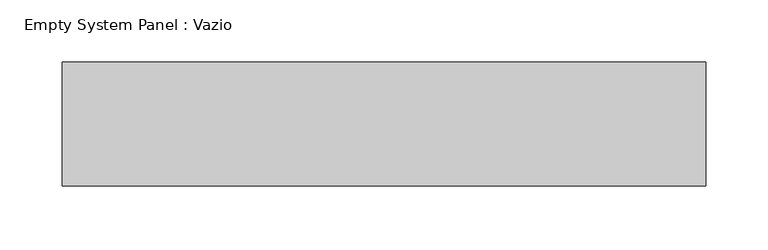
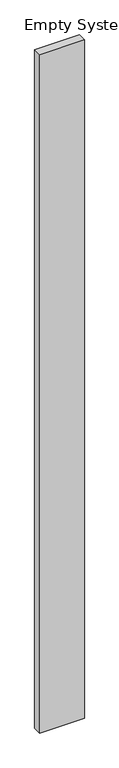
"""IFC4 building model written with IfcOpenShell, lengths in millimetres: plate geometry, Empty System Panel : Vazio."""

import ifcopenshell
import ifcopenshell.guid

model = None  # the IFC model being written
_history = None  # IfcOwnerHistory: only IFC2X3 demands one
_inside = {}  # id of a spatial element -> (the spatial element, [elements in it])
_under = {}  # id of a project, library or spatial element -> (it, [spatial elements below it])
_declared = {}  # id of a project -> (the project, [libraries it declares])
_typed = {}  # id of a type object -> (the type object, [elements of that type])
_made_of = {}  # id of a material, layer set ... -> (it, [elements and type objects made of it])


def new_model(schema):
    """Start an empty IFC model of exactly this schema.

    Asked for "IFC4X3", IfcOpenShell would pick the latest addendum, in which some entities
    have other attributes; the version numbers below select the first issue.
    IFC2X3 requires an IfcOwnerHistory on every rooted entity: one is made here for all.
    """
    global model, _history
    if schema == "IFC4X3":
        model = ifcopenshell.file(schema_version=(4, 3, 0, 0))
    else:
        model = ifcopenshell.file(schema=schema)
    _inside.clear()
    _under.clear()
    _declared.clear()
    _typed.clear()
    _made_of.clear()
    _history = None
    if model.schema == "IFC2X3":
        org = make("IfcOrganization", Name="unknown")
        user = make(
            "IfcPersonAndOrganization",
            ThePerson=make("IfcPerson", FamilyName="unknown"),
            TheOrganization=org,
        )
        app = make(
            "IfcApplication",
            ApplicationDeveloper=org,
            Version="unknown",
            ApplicationFullName="unknown",
            ApplicationIdentifier="unknown",
        )
        _history = make(
            "IfcOwnerHistory",
            OwningUser=user,
            OwningApplication=app,
            ChangeAction="ADDED",
            CreationDate=0,
        )
    return model


def make(cls, **values):
    """One entity of the class cls with the attributes given. An attribute that is None is left unset."""
    return model.create_entity(
        cls, **{name: value for name, value in values.items() if value is not None}
    )


def rooted(cls, **values):
    """An entity with a GlobalId (a new one), such as an element, a storey or a relation."""
    return make(cls, GlobalId=ifcopenshell.guid.new(), OwnerHistory=_history, **values)


def si_unit(unit_type, name, prefix=None):
    """IfcSIUnit, for example si_unit("LENGTHUNIT", "METRE", prefix="MILLI")."""
    return make("IfcSIUnit", UnitType=unit_type, Prefix=prefix, Name=name)


def assignment(units):
    """IfcUnitAssignment: the units of a project."""
    return None if units is None else make("IfcUnitAssignment", Units=units)


def point(xyz):
    """IfcCartesianPoint."""
    return None if xyz is None else make("IfcCartesianPoint", Coordinates=xyz)


def direction(xyz):
    """IfcDirection."""
    return None if xyz is None else make("IfcDirection", DirectionRatios=xyz)


def frame(location, z_axis=None, x_axis=None):
    """IfcAxis2Placement3D, a coordinate frame: its origin and axes. An axis left out is left unset."""
    return make(
        "IfcAxis2Placement3D",
        Location=point(location),
        Axis=direction(z_axis),
        RefDirection=direction(x_axis),
    )


def origin():
    """The frame at (0, 0, 0) with its axes left unset."""
    return frame((0.0, 0.0, 0.0))


def origin_with_axes():
    """The frame at (0, 0, 0) with the z axis (0, 0, 1) and the x axis (1, 0, 0) written out."""
    return frame((0.0, 0.0, 0.0), z_axis=(0.0, 0.0, 1.0), x_axis=(1.0, 0.0, 0.0))


def place(relative_to, where):
    """IfcLocalPlacement: puts the frame where relative to a parent placement (None: the world)."""
    return make(
        "IfcLocalPlacement", PlacementRelTo=relative_to, RelativePlacement=where
    )


def context(
    kind, dimensions, precision=None, world=None, true_north=None, identifier=None
):
    """IfcGeometricRepresentationContext, for example the 3D "Model" context."""
    return make(
        "IfcGeometricRepresentationContext",
        ContextIdentifier=identifier,
        ContextType=kind,
        CoordinateSpaceDimension=dimensions,
        Precision=precision,
        WorldCoordinateSystem=world,
        TrueNorth=true_north,
    )


def project(units=None, contexts=None):
    """IfcProject with its units and contexts."""
    return rooted(
        "IfcProject",
        Name="project",
        RepresentationContexts=contexts,
        UnitsInContext=assignment(units),
    )


def spatial(cls, under=None, at=None, **own):
    """A site, building, storey or space (cls), placed at a placement, below another one or the project."""
    s = rooted(cls, ObjectPlacement=at, **own)
    if under is not None:
        _under.setdefault(under.id(), (under, []))[1].append(s)
    return s


def polyline(points):
    """IfcPolyline through the points."""
    return make("IfcPolyline", Points=[point(p) for p in points])


def outline(outer, holes=None, kind="AREA"):
    """IfcArbitraryClosedProfileDef: a profile drawn as a closed curve; with holes, ...WithVoids."""
    if holes is None:
        return make("IfcArbitraryClosedProfileDef", ProfileType=kind, OuterCurve=outer)
    return make(
        "IfcArbitraryProfileDefWithVoids",
        ProfileType=kind,
        OuterCurve=outer,
        InnerCurves=holes,
    )


def extrude(swept, where, along, depth):
    """IfcExtrudedAreaSolid: the profile swept, set in the frame where, extruded along a direction by depth."""
    return make(
        "IfcExtrudedAreaSolid",
        SweptArea=swept,
        Position=where,
        ExtrudedDirection=direction(along),
        Depth=depth,
    )


def shape(context_of_items, identifier, shape_type, items):
    """IfcShapeRepresentation: the items that make up one representation, for example the "Body"."""
    return make(
        "IfcShapeRepresentation",
        ContextOfItems=context_of_items,
        RepresentationIdentifier=identifier,
        RepresentationType=shape_type,
        Items=items,
    )


def source(mapping_origin, context_of_items, identifier, shape_type, items):
    """IfcRepresentationMap: a shape defined once, which mapped items show again and again."""
    return make(
        "IfcRepresentationMap",
        MappingOrigin=mapping_origin,
        MappedRepresentation=shape(context_of_items, identifier, shape_type, items),
    )


def transform(
    local_origin,
    x_axis=None,
    y_axis=None,
    z_axis=None,
    scale=None,
    scale2=None,
    scale3=None,
    uniform=True,
):
    """IfcCartesianTransformationOperator3D, or its non-uniform kind. x_axis, y_axis, z_axis: its Axis1, 2, 3."""
    if uniform:
        return make(
            "IfcCartesianTransformationOperator3D",
            Axis1=direction(x_axis),
            Axis2=direction(y_axis),
            LocalOrigin=point(local_origin),
            Scale=scale,
            Axis3=direction(z_axis),
        )
    return make(
        "IfcCartesianTransformationOperator3DnonUniform",
        Axis1=direction(x_axis),
        Axis2=direction(y_axis),
        LocalOrigin=point(local_origin),
        Scale=scale,
        Axis3=direction(z_axis),
        Scale2=scale2,
        Scale3=scale3,
    )


def mapped(mapping_source, mapping_target):
    """IfcMappedItem: shows the shape of a source again, moved by a transform."""
    return make(
        "IfcMappedItem", MappingSource=mapping_source, MappingTarget=mapping_target
    )


def made_of(thing, what):
    """Note that an element or type object is made of a material, layer set ...; save() writes the relation."""
    if what is not None:
        _made_of.setdefault(what.id(), (what, []))[1].append(thing)
    return thing


def element(
    cls,
    number,
    at=None,
    inside=None,
    cuts=None,
    type_object=None,
    material=None,
    context=None,
    identifier="Body",
    shape_type=None,
    held_by="IfcProductDefinitionShape",
    body=None,
    shapes=None,
    **own,
):
    """One element of the class cls, such as IfcWall. Its Tag is "e" and its number.

    at: its placement. inside: the storey or other place that contains it. cuts: it is an
    opening in that element (IfcRelVoidsElement). A single representation is given by context,
    identifier, shape_type and body (its items); several are given by shapes. held_by: the class
    of the entity that holds the representations. save() writes the other relations.
    """
    e = rooted(cls, Tag="e%d" % number, ObjectPlacement=at, **own)
    if body is not None:
        shapes = [shape(context, identifier, shape_type, body)]
    if shapes is not None:
        e.Representation = make(held_by, Representations=shapes)
    if inside is not None:
        _inside.setdefault(inside.id(), (inside, []))[1].append(e)
    if cuts is not None:
        rooted(
            "IfcRelVoidsElement", RelatingBuildingElement=cuts, RelatedOpeningElement=e
        )
    if type_object is not None:
        _typed.setdefault(type_object.id(), (type_object, []))[1].append(e)
    return made_of(e, material)


def aggregate(whole, parts):
    """IfcRelAggregates: a whole, such as a stair, and the parts it consists of."""
    return rooted("IfcRelAggregates", RelatingObject=whole, RelatedObjects=parts)


def save(model, path):
    """Write the relations noted so far, then the file.

    IfcRelAggregates (storeys below a building ...), IfcRelContainedInSpatialStructure (elements
    in a storey), IfcRelDefinesByType, IfcRelAssociatesMaterial and IfcRelDeclares: one each for
    every whole, place, type object, material and project.
    """
    for whole, parts in _under.values():
        aggregate(whole, parts)
    for where, things in _inside.values():
        rooted(
            "IfcRelContainedInSpatialStructure",
            RelatedElements=things,
            RelatingStructure=where,
        )
    for kind, things in _typed.values():
        rooted("IfcRelDefinesByType", RelatedObjects=things, RelatingType=kind)
    for what, things in _made_of.values():
        rooted("IfcRelAssociatesMaterial", RelatedObjects=things, RelatingMaterial=what)
    for by, libraries in _declared.values():
        rooted("IfcRelDeclares", RelatingContext=by, RelatedDefinitions=libraries)
    model.write(path)


def empty_system_panel_vazio_172ca776(model_context):
    return source(origin(), model_context, "Body", "SweptSolid", [
        extrude(outline(polyline([(258.9285716, 50.0), (-258.9285716, 50.0), (-258.9285716, 150.0), (258.9285716, 150.0), (258.9285716, 50.0)])), origin_with_axes(), (0.0, 0.0, 1.0), 8322.2452071),
    ])


if __name__ == "__main__":
    model = new_model("IFC4")
    model_context = context("Model", 3, world=origin())
    ifc_project = project(units=[si_unit("LENGTHUNIT", "METRE", prefix="MILLI")], contexts=[model_context])
    site = spatial("IfcSite", under=ifc_project)
    building = spatial("IfcBuilding", under=site)
    placement = place(None, origin())
    empty_system_panel_vazio_shape = empty_system_panel_vazio_172ca776(model_context)
    element("IfcPlate", 1, ObjectType="Empty System Panel : Vazio", at=placement, inside=building, context=model_context, shape_type="MappedRepresentation", body=[
        mapped(empty_system_panel_vazio_shape, transform((0.0, 0.0, 0.0), x_axis=(1.0, 0.0, 0.0), y_axis=(0.0, 1.0, 0.0), z_axis=(0.0, 0.0, 1.0))),
    ])
    save(model, "model.ifc")
